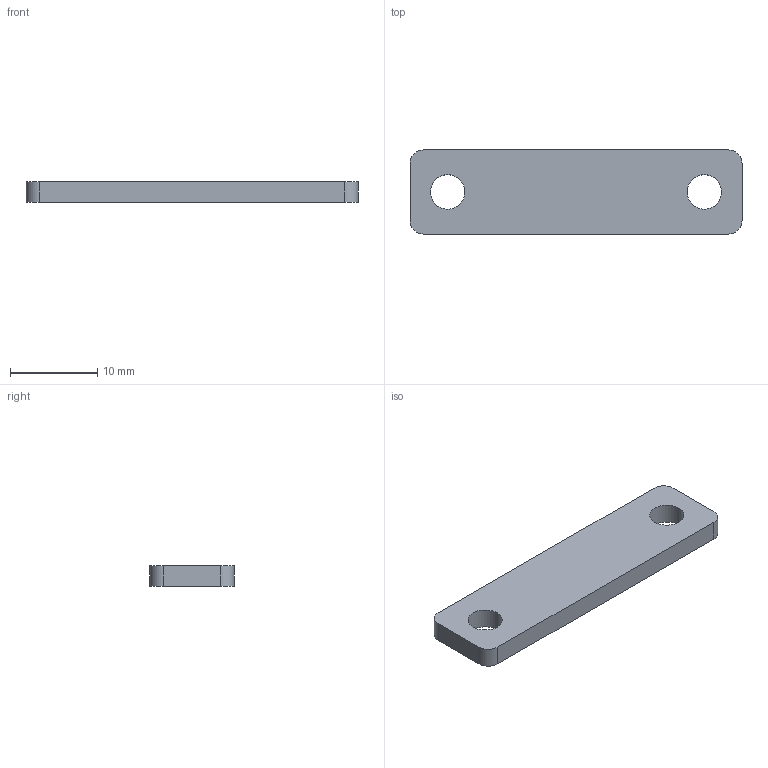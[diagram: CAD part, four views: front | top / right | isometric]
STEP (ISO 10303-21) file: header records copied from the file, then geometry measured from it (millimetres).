
FILE_DESCRIPTION((''),'2;1');
FILE_NAME('2304-327','2016-08-15T',('jpeters'),('Keithley Instruments'),'CREO PARAMETRIC BY PTC INC, 2016050','CREO PARAMETRIC BY PTC INC, 2016050','');
FILE_SCHEMA(('CONFIG_CONTROL_DESIGN'));
Length unit declared in the file: inch
Products named in the file (1): 2304-327
Bounding box: 38.1 x 9.65 x 2.36 mm (x, y, z)
Volume: 805.7 mm3; surface area: 960.4 mm2
Topology: 1 solids, 1 shells, 14 faces, 36 edges, 24 vertices
Faces by surface type: cylinder 8, plane 6
Entity records: 484 total; most frequent: DIRECTION 80, CARTESIAN_POINT 74, ORIENTED_EDGE 72, EDGE_CURVE 36, AXIS2_PLACEMENT_3D 30, VERTEX_POINT 24, VECTOR 20, LINE 20
